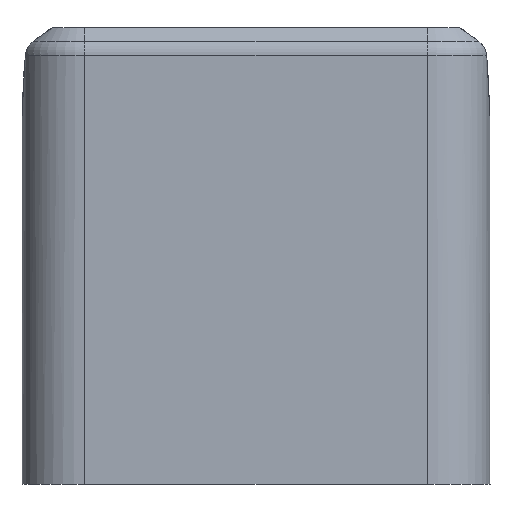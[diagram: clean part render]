
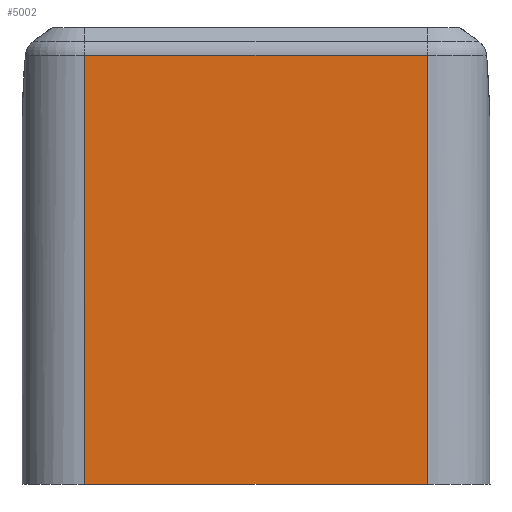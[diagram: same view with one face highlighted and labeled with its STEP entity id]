
A CAD part, top view. The second image highlights one B-rep face of the part: STEP entity #5002.
In plain terms, the highlighted planar face has unit normal (0, 0, 1).
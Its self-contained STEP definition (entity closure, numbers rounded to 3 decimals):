
#61 = LINE ( 'NONE', #863, #3637 ) ;
#163 = VERTEX_POINT ( 'NONE', #5421 ) ;
#184 = ORIENTED_EDGE ( 'NONE', *, *, #5355, .T. ) ;
#192 = VERTEX_POINT ( 'NONE', #5474 ) ;
#275 = EDGE_CURVE ( 'NONE', #192, #163, #2490, .T. ) ;
#735 = DIRECTION ( 'NONE',  ( -1., 0., 0. ) ) ;
#863 = CARTESIAN_POINT ( 'NONE',  ( -17.55, -23.375, 6.407 ) ) ;
#983 = DIRECTION ( 'NONE',  ( 1., 0., 0. ) ) ;
#1132 = CARTESIAN_POINT ( 'NONE',  ( -17.55, -23.375, 6.407 ) ) ;
#1161 = VECTOR ( 'NONE', #735, 1000. ) ;
#1441 = DIRECTION ( 'NONE',  ( 0., -1., 0. ) ) ;
#1473 = LINE ( 'NONE', #5469, #3145 ) ;
#1532 = CARTESIAN_POINT ( 'NONE',  ( -17.55, 20.547, 6.407 ) ) ;
#1670 = CARTESIAN_POINT ( 'NONE',  ( 17.55, -23.375, 6.407 ) ) ;
#1981 = FACE_OUTER_BOUND ( 'NONE', #4498, .T. ) ;
#2490 = LINE ( 'NONE', #1532, #1161 ) ;
#2871 = VECTOR ( 'NONE', #3272, 1000. ) ;
#3145 = VECTOR ( 'NONE', #1441, 1000. ) ;
#3170 = ORIENTED_EDGE ( 'NONE', *, *, #275, .T. ) ;
#3210 = CARTESIAN_POINT ( 'NONE',  ( 17.55, 23.375, 6.407 ) ) ;
#3257 = CARTESIAN_POINT ( 'NONE',  ( -17.55, 23.375, 6.407 ) ) ;
#3272 = DIRECTION ( 'NONE',  ( 0., -1., 0. ) ) ;
#3637 = VECTOR ( 'NONE', #983, 1000. ) ;
#3729 = DIRECTION ( 'NONE',  ( 0., 0., -1. ) ) ;
#3781 = PLANE ( 'NONE',  #5054 ) ;
#3845 = EDGE_CURVE ( 'NONE', #163, #4289, #1473, .T. ) ;
#4289 = VERTEX_POINT ( 'NONE', #1132 ) ;
#4382 = ORIENTED_EDGE ( 'NONE', *, *, #3845, .T. ) ;
#4498 = EDGE_LOOP ( 'NONE', ( #5638, #3170, #4382, #184 ) ) ;
#4630 = EDGE_CURVE ( 'NONE', #192, #5130, #5508, .T. ) ;
#4674 = DIRECTION ( 'NONE',  ( -1., 0., 0. ) ) ;
#5002 = ADVANCED_FACE ( 'NONE', ( #1981 ), #3781, .F. ) ;
#5054 = AXIS2_PLACEMENT_3D ( 'NONE', #3257, #3729, #4674 ) ;
#5130 = VERTEX_POINT ( 'NONE', #1670 ) ;
#5355 = EDGE_CURVE ( 'NONE', #4289, #5130, #61, .T. ) ;
#5421 = CARTESIAN_POINT ( 'NONE',  ( -17.55, 20.547, 6.407 ) ) ;
#5469 = CARTESIAN_POINT ( 'NONE',  ( -17.55, 23.375, 6.407 ) ) ;
#5474 = CARTESIAN_POINT ( 'NONE',  ( 17.55, 20.547, 6.407 ) ) ;
#5508 = LINE ( 'NONE', #3210, #2871 ) ;
#5638 = ORIENTED_EDGE ( 'NONE', *, *, #4630, .F. ) ;
